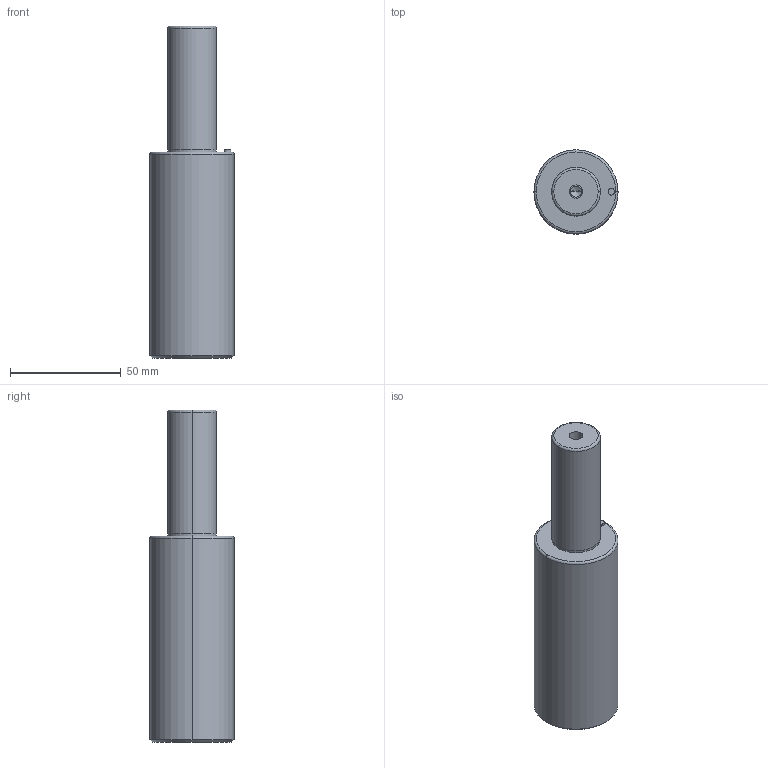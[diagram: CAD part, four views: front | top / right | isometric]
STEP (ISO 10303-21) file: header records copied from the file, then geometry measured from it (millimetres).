
FILE_DESCRIPTION(/* description */ (''),/* implementation_level */ '2;1');
FILE_NAME(/* name */ '3d_gsc38-56_03831_r00.stp',/* time_stamp */ '2011-01-10T14:15:21+09:00',/* author */ ('MISUMI'),/* organization */ (''),/* preprocessor_version */ 'ST-DEVELOPER v11',/* originating_system */ 'UGS - NX 5.0',/* authorisation */ '');
FILE_SCHEMA (('CONFIG_CONTROL_DESIGN'));
Length unit declared in the file: millimetre
Products named in the file (1): 3d_gsc38-56_03831_r00
Bounding box: 38 x 38 x 150 mm (x, y, z)
Volume: 125982.1 mm3; surface area: 17760.2 mm2
Topology: 1 solids, 1 shells, 32 faces, 66 edges, 38 vertices
Faces by surface type: cylinder 16, cone 6, plane 6, torus 4
Entity records: 912 total; most frequent: DIRECTION 168, CARTESIAN_POINT 133, ORIENTED_EDGE 124, AXIS2_PLACEMENT_3D 73, EDGE_CURVE 62, CIRCLE 40, EDGE_LOOP 38, VERTEX_POINT 38
